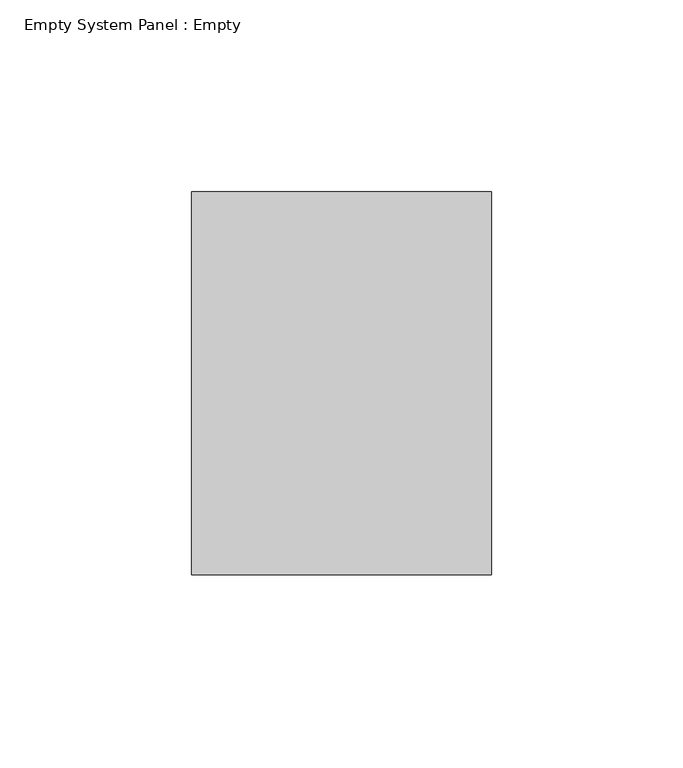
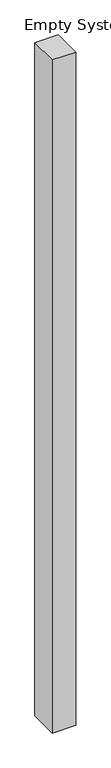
"""IFC4 building model written with IfcOpenShell, lengths in millimetres: plate geometry, Empty System Panel : Empty."""

from ifc_helpers import new_model, si_unit, origin, origin_with_axes, place, context, project, spatial, polyline, outline, extrude, source, transform, mapped, element, save


def empty_system_panel_empty_b9bee198(model_context):
    return source(origin(), model_context, "Body", "SweptSolid", [
        extrude(outline(polyline([(39.1603566, -50.0), (-39.1603566, -50.0), (-39.1603566, 50.0), (39.1603566, 50.0), (39.1603566, -50.0)])), origin_with_axes(), (0.0, 0.0, 1.0), 2380.0),
    ])


if __name__ == "__main__":
    model = new_model("IFC4")
    model_context = context("Model", 3, world=origin())
    ifc_project = project(units=[si_unit("LENGTHUNIT", "METRE", prefix="MILLI")], contexts=[model_context])
    site = spatial("IfcSite", under=ifc_project)
    building = spatial("IfcBuilding", under=site)
    placement = place(None, origin())
    empty_system_panel_empty_shape = empty_system_panel_empty_b9bee198(model_context)
    element("IfcPlate", 1, ObjectType="Empty System Panel : Empty", at=placement, inside=building, context=model_context, shape_type="MappedRepresentation", body=[
        mapped(empty_system_panel_empty_shape, transform((0.0, 0.0, 0.0), x_axis=(1.0, 0.0, 0.0), y_axis=(0.0, 1.0, 0.0), z_axis=(0.0, 0.0, 1.0))),
    ])
    save(model, "model.ifc")
